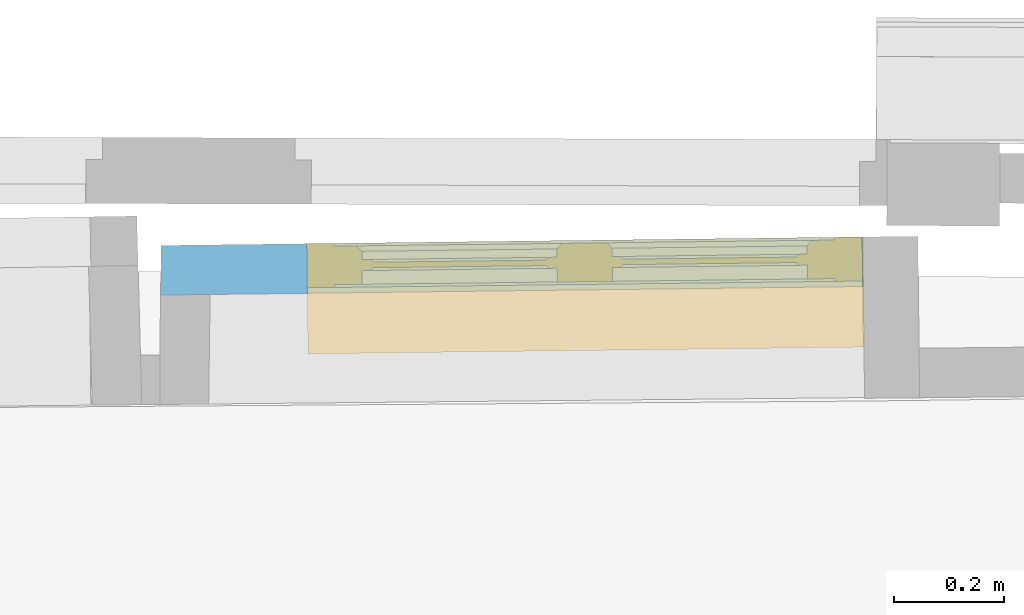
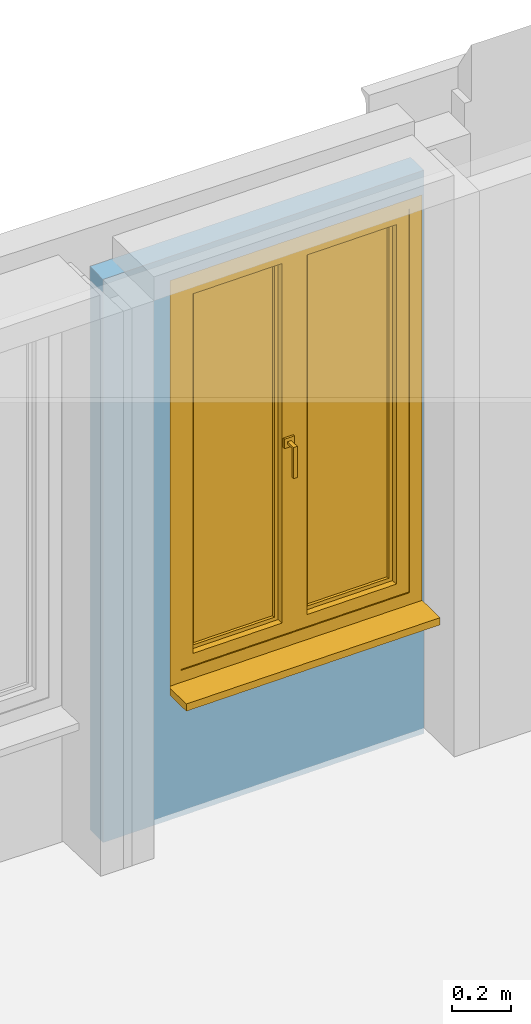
# One storey, part 64 of 72: 1 window, 1 opening, plus 1 element that does not belong to this part.
"""IFC2X3 building model written with IfcOpenShell, lengths in centimetres."""

from ifc_helpers import new_model, entity, si_unit, converted_unit, direction, frame, origin, origin_with_axes, place, context, subcontext, project, spatial, polyline, outline, extrude, faceted_brep, shape, material, material_list, layer, layer_set, layer_usage, type_object, element, fill, save


model = new_model("IFC2X3")

# Units and contexts
model_context = context("Model", 3, precision=0.0001, world=origin(), true_north=direction((0.225632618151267, 0.974212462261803, 0.0)))
body_context = subcontext(model_context, "Body", "Model", "MODEL_VIEW")
footprint_context = subcontext(model_context, "FootPrint", "Model", "MODEL_VIEW")
profile_context = subcontext(model_context, "Profile", "Model", "MODEL_VIEW")
ifc_project = project(units=[si_unit("LENGTHUNIT", "METRE", prefix="CENTI"), si_unit("AREAUNIT", "SQUARE_METRE", prefix="CENTI"), si_unit("VOLUMEUNIT", "CUBIC_METRE", prefix="CENTI"), converted_unit("PLANEANGLEUNIT", "DEGREE", entity("IfcRatioMeasure", 0.0174532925), si_unit("PLANEANGLEUNIT", "RADIAN"), dimensions=[0, 0, 0, 0, 0, 0, 0])], contexts=[model_context])

# Site, building, storey
site_placement = place(None, origin_with_axes())
site = spatial("IfcSite", under=ifc_project, at=site_placement, Name="Default Site", CompositionType="ELEMENT")
building_placement = place(site_placement, origin_with_axes())
building = spatial("IfcBuilding", under=site, at=building_placement, Name="Default Building", CompositionType="ELEMENT")
storey_placement = place(building_placement, frame((0.0, 0.0, 853.910374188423), z_axis=(0.0, 0.0, 1.0), x_axis=(1.0, 0.0, 0.0)))
storey = spatial("IfcBuildingStorey", under=building, at=storey_placement, Name="Niveau 2", CompositionType="ELEMENT", Elevation=853.910374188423)

# Wall, opening, window
ifc_material_1 = material(Name="<aucun>")
ifc_layer = layer(ifc_material_1, 9.0)
ifc_layer_set = layer_set([ifc_layer], Name="default")
ifc_layer_usage = layer_usage(ifc_layer_set, "AXIS2", "POSITIVE", -4.5)
wall_type = type_object("IfcWallType", Name="default 90", PredefinedType="NOTDEFINED", material=ifc_layer_set)
wall_placement = place(storey_placement, frame((699.879282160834, 736.158901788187, 1.06581410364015e-12), z_axis=(0.0, 0.0, 1.0), x_axis=(0.999926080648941, 0.0121586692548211, 0.0)))
wall = element("IfcWallStandardCase", 1, at=wall_placement, inside=storey, type_object=wall_type, material=ifc_layer_usage, Name="Enveloppe 177846", context=body_context, shape_type="SweptSolid", body=[
    extrude(outline(polyline([(-9.11544507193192, -4.49999999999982), (118.481027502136, -4.4999999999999), (118.496048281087, 4.50000000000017), (-8.88389420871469, 4.50000000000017), (-9.11544507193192, -4.49999999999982)])), origin_with_axes(), (0.0, 0.0, 1.0), 234.999999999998),
])
opening_placement = place(wall_placement, frame((17.5208397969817, 0.0, 54.9999999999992), z_axis=(0.0, 0.0, 1.0), x_axis=(-1.0, -8.32667268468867e-16, 0.0)))
cartesian_point_1 = entity("IfcCartesianPoint", [0.0, -8.88178419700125e-14, 170.0])
cartesian_point_2 = entity("IfcCartesianPoint", [-100.84034085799, -4.50000000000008])
opening = element("IfcOpeningElement", 2, at=opening_placement, cuts=wall, Name="4294966528_11", ObjectType="Opening", shapes=[
    shape(body_context, "Body", "SweptSolid", [extrude(outline(polyline([(-8.88178419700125e-14, 170.0), (-8.88178419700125e-14, -2.99999999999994), (100.84034085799, -2.99999999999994), (100.84034085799, 170.0), (-8.88178419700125e-14, 170.0)])), frame((0.0, -14.5, 0.0), z_axis=(0.0, 1.0, 0.0), x_axis=(-1.0, 0.0, 0.0)), (0.0, 0.0, 1.0), 29.0)]),
    shape(profile_context, "Profile", "GeometricCurveSet", [entity("IfcGeometricCurveSet", [entity("IfcPolyline", [cartesian_point_1, entity("IfcCartesianPoint", [0.0, -8.88178419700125e-14, 0.0]), entity("IfcCartesianPoint", [-100.84034085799, -8.88178419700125e-14, 0.0]), entity("IfcCartesianPoint", [-100.84034085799, -8.88178419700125e-14, 170.0]), cartesian_point_1])])]),
    shape(footprint_context, "FootPrint", "GeometricCurveSet", [entity("IfcGeometricCurveSet", [entity("IfcPolyline", [cartesian_point_2, entity("IfcCartesianPoint", [8.88178419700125e-14, -4.50000000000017]), entity("IfcCartesianPoint", [8.88178419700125e-14, 4.49999999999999]), entity("IfcCartesianPoint", [-100.840340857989, 4.4999999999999]), cartesian_point_2])])]),
])
ifc_material_2 = material(Name="Transparent")
ifc_material_3 = material(Name="Jaune 255-255-0")
ifc_material_4 = material(Name="Brèche oniciata")
ifc_material_5 = material(Name="Aluminium satiné")
ifc_material_list = material_list([ifc_material_2, ifc_material_3, ifc_material_4, ifc_material_5])
window_style = type_object("IfcWindowStyle", Name="FN[R] 2VB[1V] MM", ConstructionType="NOTDEFINED", OperationType="DOUBLE_PANEL_VERTICAL", ParameterTakesPrecedence=True, Sizeable=False, material=ifc_material_list)
window_placement = place(opening_placement, frame((-100.840340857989, -4.50000000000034, -7.105427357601e-15), z_axis=(0.0, 0.0, 1.0), x_axis=(1.0, 0.0, 0.0)))
window = element("IfcWindow", 3, at=window_placement, inside=storey, type_object=window_style, material=ifc_material_list, Name="Fenêtre 178841", OverallHeight=170.0, OverallWidth=100.84034085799, context=body_context, shape_type="Brep", body=[
    faceted_brep([(-3.26060130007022e-05, 2.01178399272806e-05, -4.31537632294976e-06), (100.840360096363, -2.11664344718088e-05, -4.31537632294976e-06), (100.840354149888, 8.99999186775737, -4.31537632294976e-06), (100.840346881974, 20.0000077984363, -4.31537632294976e-06), (-4.640017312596e-05, 20.0000014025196, -4.31537632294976e-06), (8.54793213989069e-06, 8.99998489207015, -4.31537632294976e-06), (8.54793213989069e-06, 8.99998489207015, -2.99997761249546), (-4.640017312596e-05, 20.0000014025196, -2.99997761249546), (100.840346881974, 20.0000077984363, -2.99997761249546), (100.840354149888, 8.99999186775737, -2.99997761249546), (100.840360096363, -2.11664344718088e-05, -2.99997761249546), (-3.26060130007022e-05, 2.01178399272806e-05, -2.99997761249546), (8.5461734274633e-06, 20.0000014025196, -4.31537632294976e-06), (8.5461734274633e-06, 20.0000014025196, -2.99997761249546), (100.840346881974, 20.0000014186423, -4.31537632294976e-06), (100.840346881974, 20.0000014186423, -2.99997761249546), (100.840346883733, 8.99999186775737, -4.31537632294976e-06), (100.840346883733, 8.99999186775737, -2.99997761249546), (100.840354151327, -2.11664344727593e-05, -4.31537632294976e-06), (100.840354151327, -2.11664344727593e-05, -2.99997761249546), (-3.2606012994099e-05, -2.11825571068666e-05, -4.31537632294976e-06), (-3.2606012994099e-05, -2.11825571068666e-05, -2.99997761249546), (-3.26074519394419e-05, 8.99998489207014, -4.31537632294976e-06), (-3.26074519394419e-05, 8.99998489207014, -2.99997761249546)], [[[0, 1, 2, 3, 4, 5]], [[6, 7, 8, 9, 10, 11]], [[5, 12, 13, 6]], [[4, 14, 15, 7]], [[3, 16, 17, 8]], [[2, 18, 19, 9]], [[1, 20, 21, 10]], [[0, 22, 23, 11]]]),
    faceted_brep([(5.00000059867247, 7.99999991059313, 164.999997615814), (5.00000059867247, 8.94070595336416e-08, 164.999997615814), (5.00000059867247, 8.94070595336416e-08, 5.00000007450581), (5.00000059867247, 7.99999991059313, 5.00000007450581), (-5.93420423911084e-07, 8.94070602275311e-08, 170.000004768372), (-5.93420423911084e-07, 8.94070602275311e-08, 1.77635683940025e-13), (-5.93420423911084e-07, 8.94070595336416e-08, 170.000004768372), (-5.93420423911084e-07, 7.99999991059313, 170.000004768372), (-5.93420423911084e-07, 7.99999991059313, 1.77635683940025e-13), (-5.93420423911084e-07, 8.94070595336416e-08, 1.77635683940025e-13), (5.00000059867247, 7.99999991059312, 164.999997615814), (5.00000059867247, 7.99999991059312, 5.00000007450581), (95.840340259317, 8.94070595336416e-08, 5.0000000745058), (95.840340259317, 7.99999991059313, 5.0000000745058), (100.84034145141, 8.94070477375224e-08, 1.77635683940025e-13), (95.840340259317, 8.94070482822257e-08, 5.00000007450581), (100.84034145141, 7.99999991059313, 1.77635683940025e-13), (100.84034145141, 8.94070595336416e-08, 1.77635683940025e-13), (95.840340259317, 7.99999991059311, 5.00000007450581), (100.84034145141, 7.99999991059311, 1.77635683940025e-13), (95.840340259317, 7.99999991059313, 5.00000007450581), (95.840340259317, 8.94070595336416e-08, 5.00000007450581), (95.840340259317, 8.94070595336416e-08, 164.999997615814), (95.840340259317, 7.99999991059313, 164.999997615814), (100.84034145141, 8.9407058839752e-08, 1.77635683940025e-13), (100.84034145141, 8.9407058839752e-08, 170.000004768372), (100.84034145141, 7.99999991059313, 170.000004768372), (100.84034145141, 8.94070595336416e-08, 170.000004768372), (100.84034145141, 8.9407058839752e-08, 170.000004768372), (-5.93420423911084e-07, 8.94070713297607e-08, 170.000004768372), (5.00000059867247, 8.94070707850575e-08, 164.999997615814), (5.00000059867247, 7.99999991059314, 164.999997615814), (-5.93420423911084e-07, 7.99999991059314, 170.000004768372)], [[[0, 1, 2, 3]], [[1, 4, 5, 2]], [[6, 7, 8, 9]], [[7, 10, 11, 8]], [[3, 2, 12, 13]], [[2, 5, 14, 15]], [[9, 8, 16, 17]], [[8, 3, 18, 19]], [[20, 21, 22, 23]], [[21, 24, 25, 22]], [[17, 16, 26, 27]], [[16, 20, 23, 26]], [[23, 22, 1, 0]], [[22, 28, 29, 30]], [[27, 26, 7, 6]], [[26, 23, 31, 32]]]),
    faceted_brep([(9.99999881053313, 7.50000001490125, 160.000002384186), (9.99999881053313, 1.49999996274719, 160.000002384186), (9.99999881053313, 1.49999996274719, 10.0000001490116), (9.99999881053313, 7.50000001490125, 10.0000001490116), (8.99999929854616, 0.500000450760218, 161.000001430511), (8.99999929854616, 0.500000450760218, 9.00000035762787), (8.99999976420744, 0.499999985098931, 161.000001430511), (5.00000059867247, 0.499999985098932, 164.999997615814), (5.00000059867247, 0.499999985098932, 5.00000007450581), (8.99999976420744, 0.499999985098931, 9.00000035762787), (5.00000059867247, 0.499999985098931, 164.999997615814), (5.00000059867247, 7.50000001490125, 164.999997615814), (5.00000059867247, 7.50000001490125, 5.00000007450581), (5.00000059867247, 0.499999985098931, 5.00000007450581), (45.4201703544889, 1.49999996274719, 10.0000001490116), (45.4201703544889, 7.50000001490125, 10.0000001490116), (8.99999976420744, 0.500000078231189, 9.00000026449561), (46.4201705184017, 0.50000007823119, 9.00000026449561), (50.4201704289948, 0.499999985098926, 5.00000007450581), (46.4201705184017, 0.499999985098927, 9.00000035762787), (50.4201704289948, 7.50000001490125, 5.00000007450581), (50.4201704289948, 0.499999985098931, 5.00000007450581), (45.4201703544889, 1.49999996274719, 160.000002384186), (45.4201703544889, 7.50000001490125, 160.000002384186), (46.4201704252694, 0.499999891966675, 9.00000035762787), (46.4201704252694, 0.499999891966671, 161.000001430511), (46.4201705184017, 0.499999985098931, 9.00000035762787), (50.4201704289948, 0.499999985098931, 5.00000007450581), (50.4201704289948, 0.499999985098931, 164.999997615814), (46.4201705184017, 0.499999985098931, 161.000001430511), (50.4201704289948, 7.50000001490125, 164.999997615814), (50.4201704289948, 0.499999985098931, 164.999997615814), (46.4201705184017, 0.500000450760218, 161.000001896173), (8.99999976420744, 0.500000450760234, 161.000001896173), (9.99999881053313, 1.49999996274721, 160.000002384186), (5.00000059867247, 0.499999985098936, 164.999997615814), (8.99999976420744, 0.499999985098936, 161.000001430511), (45.4201703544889, 7.50000001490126, 160.000002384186), (9.99999881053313, 7.50000001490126, 160.000002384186), (5.00000059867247, 7.50000001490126, 164.999997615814)], [[[0, 1, 2, 3]], [[1, 4, 5, 2]], [[6, 7, 8, 9]], [[10, 11, 12, 13]], [[11, 0, 3, 12]], [[3, 2, 14, 15]], [[2, 16, 17, 14]], [[9, 8, 18, 19]], [[13, 12, 20, 21]], [[12, 3, 15, 20]], [[15, 14, 22, 23]], [[14, 24, 25, 22]], [[26, 27, 28, 29]], [[21, 20, 30, 31]], [[20, 15, 23, 30]], [[23, 22, 1, 0]], [[22, 32, 33, 34]], [[29, 28, 35, 36]], [[31, 30, 11, 10]], [[30, 37, 38, 39]]]),
    faceted_brep([(11.5000003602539, 4.99999997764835, 158.500003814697), (12.0000001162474, 4.50000022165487, 158.000004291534), (12.0000001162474, 4.50000022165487, 11.9999997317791), (11.5000003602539, 4.99999997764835, 11.5000002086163), (11.9999998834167, 4.49999998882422, 158.000004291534), (11.9999998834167, 3.50000001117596, 158.000004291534), (11.9999998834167, 3.50000001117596, 11.9999997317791), (11.9999998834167, 4.49999998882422, 11.9999997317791), (11.5000001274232, 3.00000025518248, 158.500003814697), (11.5000001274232, 3.00000025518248, 11.5000002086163), (11.5000003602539, 3.00000002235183, 158.500003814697), (9.99999881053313, 3.00000002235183, 160.000002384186), (9.99999881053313, 3.00000002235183, 10.0000001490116), (11.5000003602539, 3.00000002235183, 11.5000002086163), (9.99999881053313, 4.99999997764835, 160.000002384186), (9.99999881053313, 4.99999997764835, 10.0000001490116), (11.9999998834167, 4.50000022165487, 11.9999999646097), (43.4201703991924, 4.50000022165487, 11.9999999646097), (43.9201706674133, 4.99999997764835, 11.5000002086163), (43.4201703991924, 3.50000001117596, 11.9999997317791), (43.4201703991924, 4.49999998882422, 11.9999997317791), (11.5000003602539, 3.00000025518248, 11.4999999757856), (43.9201706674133, 3.00000025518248, 11.4999999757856), (45.4201703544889, 3.00000002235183, 10.0000001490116), (43.9201706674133, 3.00000002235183, 11.5000002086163), (45.4201703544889, 4.99999997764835, 10.0000001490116), (43.4201705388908, 4.49999984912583, 11.9999997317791), (43.4201705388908, 4.49999984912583, 158.000004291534), (43.9201706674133, 4.99999997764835, 158.500003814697), (43.4201703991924, 3.50000001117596, 158.000004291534), (43.4201703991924, 4.49999998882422, 158.000004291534), (43.9201705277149, 2.99999988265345, 11.5000002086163), (43.9201705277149, 2.99999988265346, 158.500003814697), (43.4201703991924, 3.50000001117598, 158.000004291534), (45.4201703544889, 3.00000002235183, 160.000002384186), (43.9201706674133, 3.00000002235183, 158.500003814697), (45.4201703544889, 4.99999997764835, 160.000002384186), (43.4201703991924, 4.50000022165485, 158.000004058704), (11.9999998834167, 4.50000022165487, 158.000004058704), (43.9201706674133, 3.00000025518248, 158.500004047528), (11.5000003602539, 3.00000025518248, 158.500004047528), (9.99999881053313, 3.00000002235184, 160.000002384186), (11.5000003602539, 3.00000002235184, 158.500003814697), (11.5000003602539, 4.99999997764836, 158.500003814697), (9.99999881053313, 4.99999997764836, 160.000002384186)], [[[0, 1, 2, 3]], [[4, 5, 6, 7]], [[5, 8, 9, 6]], [[10, 11, 12, 13]], [[11, 14, 15, 12]], [[14, 0, 3, 15]], [[3, 16, 17, 18]], [[7, 6, 19, 20]], [[6, 21, 22, 19]], [[13, 12, 23, 24]], [[12, 15, 25, 23]], [[15, 3, 18, 25]], [[18, 26, 27, 28]], [[20, 19, 29, 30]], [[19, 31, 32, 33]], [[24, 23, 34, 35]], [[23, 25, 36, 34]], [[25, 18, 28, 36]], [[28, 37, 38, 0]], [[30, 29, 5, 4]], [[29, 39, 40, 5]], [[35, 34, 41, 42]], [[34, 36, 14, 11]], [[36, 28, 43, 44]]]),
    faceted_brep([(43.4201703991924, 4.49999998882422, 158.000004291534), (43.4201703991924, 4.49999998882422, 11.9999997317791), (11.9999998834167, 4.49999998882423, 11.9999997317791), (11.9999998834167, 4.49999998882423, 158.000004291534), (11.9999998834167, 3.50000001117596, 158.000004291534), (11.9999998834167, 3.50000001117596, 11.9999997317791), (43.4201703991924, 3.50000001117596, 11.9999997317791), (43.4201703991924, 3.50000001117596, 158.000004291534), (11.9999998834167, 4.49999998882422, 158.000004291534), (11.9999998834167, 4.49999998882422, 11.9999997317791)], [[[0, 1, 2, 3]], [[4, 5, 6, 7]], [[8, 9, 5, 4]], [[9, 1, 6, 5]], [[1, 0, 7, 6]], [[0, 8, 4, 7]]]),
    faceted_brep([(55.4201705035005, 7.50000001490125, 160.000002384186), (55.4201705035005, 1.49999996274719, 160.000002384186), (55.4201705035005, 1.49999996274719, 10.0000001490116), (55.4201705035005, 7.50000001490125, 10.0000001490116), (54.42017043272, 0.499999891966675, 161.000001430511), (54.42017043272, 0.499999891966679, 9.00000035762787), (54.4201703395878, 0.499999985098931, 161.000001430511), (50.4201704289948, 0.499999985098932, 164.999997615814), (50.4201704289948, 0.499999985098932, 5.00000007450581), (54.4201703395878, 0.499999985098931, 9.00000035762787), (50.4201704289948, 0.499999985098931, 164.999997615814), (50.4201704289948, 7.50000001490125, 164.999997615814), (50.4201704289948, 7.50000001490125, 5.00000007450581), (50.4201704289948, 0.499999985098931, 5.00000007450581), (90.8403420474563, 1.49999996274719, 10.0000001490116), (90.8403420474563, 7.50000001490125, 10.0000001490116), (54.4201703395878, 0.500000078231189, 9.00000026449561), (91.840341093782, 0.500000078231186, 9.00000026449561), (95.840340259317, 0.499999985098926, 5.00000007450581), (91.840341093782, 0.499999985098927, 9.00000035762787), (95.840340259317, 7.50000001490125, 5.00000007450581), (95.840340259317, 0.499999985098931, 5.00000007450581), (90.8403420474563, 1.49999996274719, 160.000002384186), (90.8403420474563, 7.50000001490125, 160.000002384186), (91.8403415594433, 0.500000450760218, 9.00000035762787), (91.8403415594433, 0.50000045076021, 161.000001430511), (90.8403420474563, 1.49999996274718, 160.000002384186), (91.840341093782, 0.499999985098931, 9.00000035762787), (95.840340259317, 0.499999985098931, 5.00000007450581), (95.840340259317, 0.499999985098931, 164.999997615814), (91.840341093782, 0.499999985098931, 161.000001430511), (95.840340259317, 7.50000001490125, 164.999997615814), (95.840340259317, 0.499999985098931, 164.999997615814), (90.8403420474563, 7.50000001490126, 10.0000001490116), (90.8403420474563, 7.50000001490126, 160.000002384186), (91.840341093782, 0.500000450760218, 161.000001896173), (54.4201703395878, 0.500000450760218, 161.000001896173), (50.4201704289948, 0.499999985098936, 164.999997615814), (54.4201703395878, 0.499999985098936, 161.000001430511), (55.4201705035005, 7.50000001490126, 160.000002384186), (50.4201704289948, 7.50000001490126, 164.999997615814)], [[[0, 1, 2, 3]], [[1, 4, 5, 2]], [[6, 7, 8, 9]], [[10, 11, 12, 13]], [[11, 0, 3, 12]], [[3, 2, 14, 15]], [[2, 16, 17, 14]], [[9, 8, 18, 19]], [[13, 12, 20, 21]], [[12, 3, 15, 20]], [[15, 14, 22, 23]], [[14, 24, 25, 26]], [[27, 28, 29, 30]], [[21, 20, 31, 32]], [[20, 33, 34, 31]], [[23, 22, 1, 0]], [[22, 35, 36, 1]], [[30, 29, 37, 38]], [[32, 31, 11, 10]], [[31, 34, 39, 40]]]),
    faceted_brep([(50.9201704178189, 7.50000001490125, 87.0000004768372), (50.9201704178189, 7.50000001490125, 82.9999983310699), (54.9201706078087, 7.50000001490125, 82.9999983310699), (54.9201706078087, 7.50000001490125, 87.0000004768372), (54.9201706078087, 8.30000014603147, 87.0000004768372), (54.9201706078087, 8.30000014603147, 82.9999983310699), (50.9201704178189, 8.30000014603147, 82.9999983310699), (50.9201704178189, 8.30000014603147, 87.0000004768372)], [[[0, 1, 2, 3]], [[4, 5, 6, 7]], [[3, 2, 5, 4]], [[2, 1, 6, 5]], [[1, 0, 7, 6]], [[0, 3, 4, 7]]]),
    faceted_brep([(52.1701704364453, 8.30000014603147, 85.5000019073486), (52.1701704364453, 8.30000014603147, 84.5000028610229), (53.6701703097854, 8.30000014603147, 84.5000028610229), (53.6701703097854, 8.30000014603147, 85.5000019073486), (53.6701703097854, 12.2999996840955, 85.5000019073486), (53.6701703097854, 11.3000002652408, 84.5000024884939), (52.1701704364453, 11.3000002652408, 84.5000024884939), (52.1701704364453, 12.2999996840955, 85.5000019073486), (53.6701703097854, 11.2999998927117, 84.5000028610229), (52.1701704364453, 11.2999998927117, 84.5000028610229)], [[[0, 1, 2, 3]], [[4, 5, 6, 7]], [[3, 2, 8, 4]], [[2, 1, 9, 8]], [[1, 0, 7, 9]], [[0, 3, 4, 7]]]),
    faceted_brep([(52.1701704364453, 12.2999996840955, 85.5000019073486), (52.1701704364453, 11.3000002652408, 84.5000024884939), (53.6701703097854, 11.3000002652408, 84.5000024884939), (53.6701703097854, 12.2999996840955, 85.5000019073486), (53.6701703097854, 12.2999996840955, 72.5000023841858), (53.6701703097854, 11.2999998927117, 72.5000023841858), (52.1701704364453, 11.2999998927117, 72.5000023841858), (52.1701704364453, 12.2999996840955, 72.5000023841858), (53.6701703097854, 11.2999998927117, 84.5000028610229), (52.1701704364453, 11.2999998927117, 84.5000028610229)], [[[0, 1, 2, 3]], [[4, 5, 6, 7]], [[3, 8, 5, 4]], [[8, 9, 6, 5]], [[9, 0, 7, 6]], [[0, 3, 4, 7]]]),
    faceted_brep([(56.9201701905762, 4.99999997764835, 158.500003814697), (57.4201703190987, 4.49999984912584, 158.000004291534), (57.4201703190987, 4.49999984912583, 11.9999997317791), (56.9201701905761, 4.99999997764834, 11.5000002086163), (57.4201704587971, 4.49999998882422, 158.000004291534), (57.4201704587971, 3.50000001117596, 158.000004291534), (57.420170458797, 3.50000001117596, 11.9999997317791), (57.420170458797, 4.49999998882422, 11.9999997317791), (56.9201703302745, 2.99999988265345, 158.500003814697), (56.9201703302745, 2.99999988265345, 11.5000002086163), (57.4201704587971, 3.50000001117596, 11.9999997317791), (56.9201701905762, 3.00000002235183, 158.500003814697), (55.4201705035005, 3.00000002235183, 160.000002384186), (55.4201705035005, 3.00000002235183, 10.0000001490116), (56.9201701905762, 3.00000002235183, 11.5000002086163), (55.4201705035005, 4.99999997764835, 160.000002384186), (55.4201705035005, 4.99999997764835, 10.0000001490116), (56.9201701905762, 4.99999997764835, 11.5000002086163), (57.4201704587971, 4.50000022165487, 11.9999999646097), (88.8403409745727, 4.50000022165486, 11.9999999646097), (89.3403404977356, 4.99999997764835, 11.5000002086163), (57.4201704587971, 4.49999998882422, 11.9999997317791), (88.8403409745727, 3.50000001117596, 11.9999997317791), (88.8403409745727, 4.49999998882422, 11.9999997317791), (56.9201701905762, 3.00000025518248, 11.4999999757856), (89.3403404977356, 3.00000025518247, 11.4999999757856), (90.8403420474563, 3.00000002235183, 10.0000001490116), (89.3403404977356, 3.00000002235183, 11.5000002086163), (90.8403420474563, 4.99999997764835, 10.0000001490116), (88.8403407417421, 4.50000022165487, 11.9999997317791), (88.8403407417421, 4.50000022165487, 158.000004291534), (89.3403404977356, 4.99999997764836, 158.500003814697), (88.8403409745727, 3.50000001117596, 158.000004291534), (88.8403409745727, 4.49999998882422, 158.000004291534), (89.3403407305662, 3.00000025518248, 11.5000002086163), (89.3403407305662, 3.00000025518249, 158.500003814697), (88.8403409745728, 3.50000001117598, 158.000004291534), (90.8403420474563, 3.00000002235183, 160.000002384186), (89.3403404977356, 3.00000002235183, 158.500003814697), (90.8403420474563, 4.99999997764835, 160.000002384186), (89.3403404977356, 4.99999997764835, 158.500003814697), (88.8403409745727, 4.50000022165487, 158.000004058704), (57.4201704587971, 4.50000022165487, 158.000004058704), (89.3403404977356, 3.00000025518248, 158.500004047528), (56.9201701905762, 3.00000025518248, 158.500004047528), (55.4201705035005, 3.00000002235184, 160.000002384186), (56.9201701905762, 3.00000002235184, 158.500003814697), (55.4201705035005, 4.99999997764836, 160.000002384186)], [[[0, 1, 2, 3]], [[4, 5, 6, 7]], [[5, 8, 9, 10]], [[11, 12, 13, 14]], [[12, 15, 16, 13]], [[15, 0, 17, 16]], [[17, 18, 19, 20]], [[21, 10, 22, 23]], [[10, 24, 25, 22]], [[14, 13, 26, 27]], [[13, 16, 28, 26]], [[16, 17, 20, 28]], [[20, 29, 30, 31]], [[23, 22, 32, 33]], [[22, 34, 35, 36]], [[27, 26, 37, 38]], [[26, 28, 39, 37]], [[28, 20, 40, 39]], [[40, 41, 42, 0]], [[33, 32, 5, 4]], [[32, 43, 44, 5]], [[38, 37, 45, 46]], [[37, 39, 15, 12]], [[39, 40, 0, 47]]]),
    faceted_brep([(88.8403409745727, 4.49999998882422, 158.000004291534), (88.8403409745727, 4.49999998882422, 11.9999997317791), (57.4201704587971, 4.49999998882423, 11.9999997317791), (57.4201704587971, 4.49999998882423, 158.000004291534), (57.4201704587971, 3.50000001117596, 158.000004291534), (57.4201704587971, 3.50000001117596, 11.9999997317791), (88.8403409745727, 3.50000001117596, 11.9999997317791), (88.8403409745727, 3.50000001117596, 158.000004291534), (57.4201704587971, 4.49999998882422, 158.000004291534), (57.420170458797, 4.49999998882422, 11.9999997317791), (57.420170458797, 3.50000001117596, 11.9999997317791), (57.4201704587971, 4.49999998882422, 11.9999997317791)], [[[0, 1, 2, 3]], [[4, 5, 6, 7]], [[8, 9, 10, 4]], [[11, 1, 6, 5]], [[1, 0, 7, 6]], [[0, 8, 4, 7]]]),
])
fill(opening, window)

save(model, "model.ifc")
